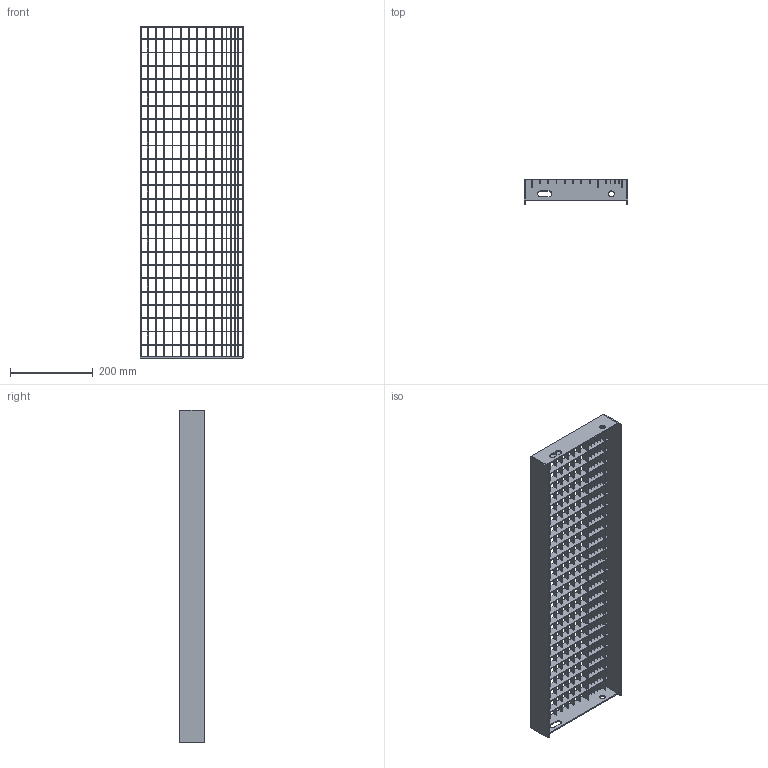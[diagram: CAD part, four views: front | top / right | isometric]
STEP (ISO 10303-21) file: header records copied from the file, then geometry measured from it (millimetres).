
FILE_DESCRIPTION (( 'STEP AP203' ), '1' );
FILE_NAME ('23007258S_ Gitterristetrin_250x800mm.STEP', '2014-12-15T12:46:24', ( '' ), ( '' ), 'SwSTEP 2.0', 'SolidWorks 2013', '' );
FILE_SCHEMA (( 'CONFIG_CONTROL_DESIGN' ));
Length unit declared in the file: millimetre
Products named in the file (9): Kantstaal_m_savtak_60x3x800mm (2); Baereribbe_20x2x244; Fylderibbe_10x2x794mm; Fylderibbe_m_savtak_10x2x794mm; Styreribbe_20x2x794mm; Styreribbe_m_savtak_20x2x794mm; 23007258S_ Gitterristetrin_250x800mm; Endestykke_50x3x244mm; Kantstaal_60x3x800mm
Assembly tree (42 placements, depth 2):
  23007258S_ Gitterristetrin_250x800mm
    Endestykke_50x3x244mm  x2
    Kantstaal_60x3x800mm
    Kantstaal_m_savtak_60x3x800mm (2)
    Baereribbe_20x2x244  x24
    Fylderibbe_10x2x794mm  x7
    Fylderibbe_m_savtak_10x2x794mm  x4
    Styreribbe_20x2x794mm  x2
    Styreribbe_m_savtak_20x2x794mm
Bounding box: 250 x 60 x 800 mm (x, y, z)
Volume: 834961.2 mm3; surface area: 820214.6 mm2
Topology: 42 solids, 42 shells, 4582 faces, 13494 edges, 8996 vertices
Faces by surface type: plane 3904, cylinder 678
Full cylindrical faces by diameter (mm): 14 x2
Entity records: 56649 total; most frequent: CARTESIAN_POINT 9834, ORIENTED_EDGE 9772, DIRECTION 8944, EDGE_CURVE 4886, VECTOR 4208, LINE 4208, VERTEX_POINT 3258, AXIS2_PLACEMENT_3D 2368
